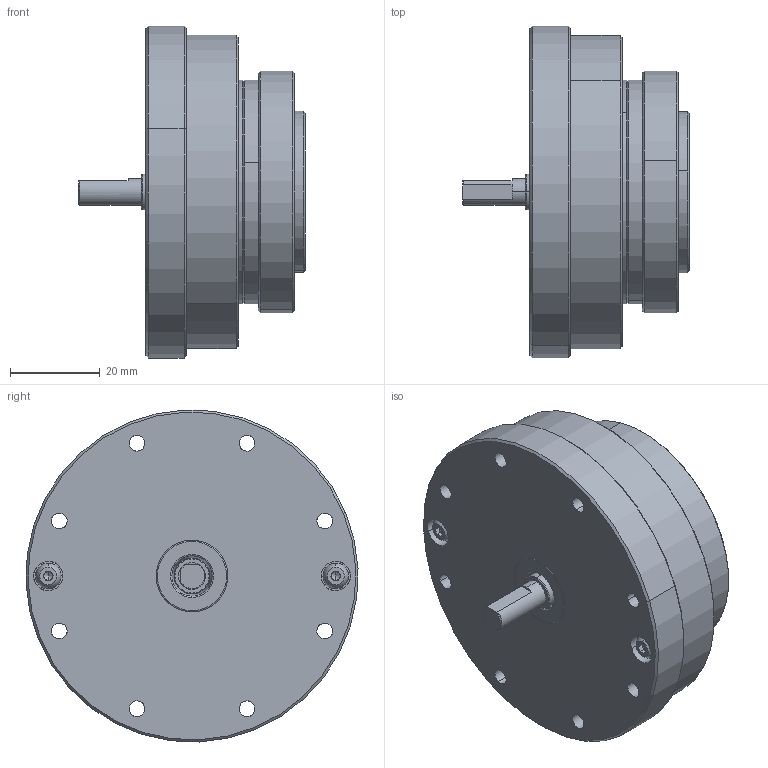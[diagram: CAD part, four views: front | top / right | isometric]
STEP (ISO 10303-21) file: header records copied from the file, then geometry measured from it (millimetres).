
FILE_DESCRIPTION (( 'STEP AP203' ), '1' );
FILE_NAME ('FHG-14-XXX-AJ.STEP', '2020-04-22T01:13:31', ( '' ), ( '' ), 'SwSTEP 2.0', 'SolidWorks 2016', '' );
FILE_SCHEMA (( 'CONFIG_CONTROL_DESIGN' ));
Length unit declared in the file: millimetre
Products named in the file (1): FHG-14-XXX-AJ
Bounding box: 50.5 x 73.93 x 73.93 mm (x, y, z)
Volume: 77380.3 mm3; surface area: 50290.8 mm2
Topology: 15 solids, 15 shells, 654 faces, 1468 edges, 875 vertices
Faces by surface type: cylinder 272, cone 197, plane 165, torus 20
Entity records: 18247 total; most frequent: DIRECTION 3508, CARTESIAN_POINT 3024, ORIENTED_EDGE 2852, AXIS2_PLACEMENT_3D 1435, EDGE_CURVE 1426, VERTEX_POINT 875, EDGE_LOOP 823, CIRCLE 780
